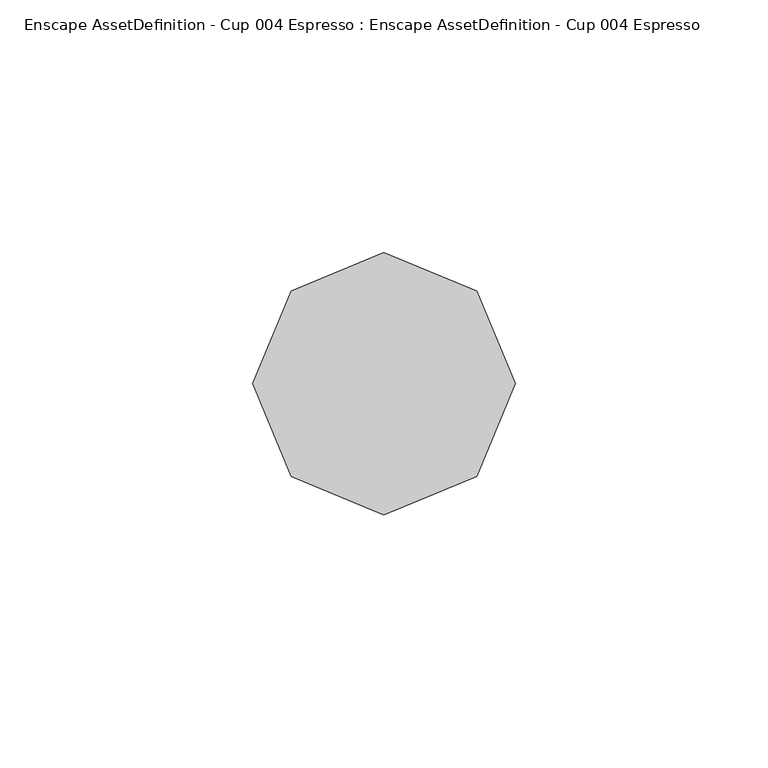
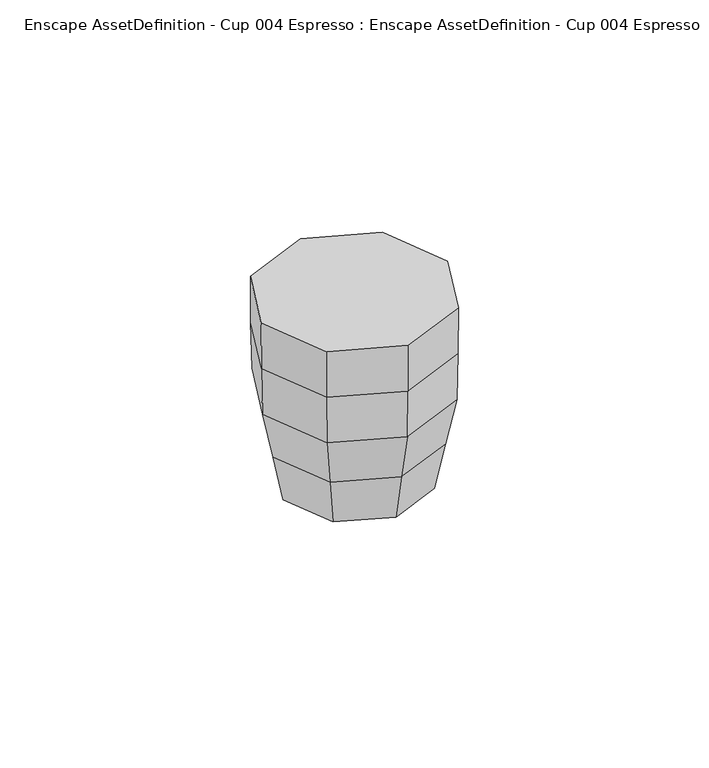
"""IFC4 building model written with IfcOpenShell, lengths in millimetres: geographic element geometry, Enscape AssetDefinition - Cup 004 Espresso : Enscape AssetDefinition - Cup 004 Espresso."""

from ifc_helpers import new_model, si_unit, origin, place, context, project, spatial, triangles, source, transform, mapped, element, save


def enscape_assetdefinition_cup_004_espresso_enscape_9e3265cb(model_context):
    return source(origin(), model_context, "Body", "Tessellation", [
        triangles([(-18.2825051, -18.2825051, 40.5622816), (-18.0614725, -18.0614725, 27.0415248), (-25.8553554, 0.0, 40.5622816), (0.0, -25.5427791, 27.0415248), (0.0, -25.8553554, 40.5622816), (-18.3209055, -18.3209055, 54.0830497), (-25.9096717, 0.0, 54.0830497), (25.9096717, 0.0, 54.0830497), (0.0, 25.9096717, 54.0830497), (0.0, -25.9096717, 54.0830497), (18.2825051, 18.2824971, 40.5622816), (18.3209055, 18.3209055, 54.0830497), (18.3209055, -18.3209055, 54.0830497), (25.8553622, 0.0, 40.5622816), (0.0, 22.7064878, 13.520759), (18.0614725, 18.0614623, 27.0415248), (25.5427791, 0.0, 27.0415248), (18.2825051, -18.2824971, 40.5622816), (18.0614725, -18.0614623, 27.0415248), (0.0, -22.7064878, 13.520759), (16.0559138, -16.0559059, 13.520759), (16.0559138, 16.0559059, 13.520759), (22.7064878, 0.0, 13.520759), (0.0, 19.9184222, 0.0), (14.0844544, 14.0844476, 0.0), (-19.9184222, 0.0, 0.0), (14.0844544, -14.0844476, 0.0), (19.9184222, 0.0, 0.0), (0.0, -19.9184222, 0.0), (-14.0844544, -14.0844544, 0.0), (-14.0844544, 14.0844544, 0.0), (-22.7064878, 0.0, 13.520759), (-16.0559138, 16.0559138, 13.520759), (-25.5427791, 0.0, 27.0415248), (-18.0614725, 18.0614725, 27.0415248), (-16.0559138, -16.0559138, 13.520759), (0.0, 25.8553554, 40.5622816), (0.0, 25.5427791, 27.0415248), (-18.2825051, 18.2825051, 40.5622816), (-18.3209055, 18.3209055, 54.0830497)], [[20, 4, 2], [3, 7, 40], [3, 40, 39], [35, 39, 37], [35, 37, 38], [34, 3, 39], [2, 3, 34], [34, 39, 35], [36, 2, 34], [20, 2, 36], [30, 36, 32], [32, 34, 35], [36, 34, 32], [33, 35, 38], [33, 38, 15], [32, 35, 33], [31, 33, 15], [26, 32, 33], [30, 32, 26], [26, 33, 31], [29, 30, 26], [29, 20, 36], [29, 36, 30], [27, 20, 29], [27, 21, 20], [28, 27, 29], [28, 29, 26], [28, 21, 27], [26, 24, 28], [24, 25, 28], [26, 31, 24], [31, 15, 24], [24, 15, 22], [28, 25, 22], [24, 22, 25], [28, 23, 21], [28, 22, 23], [20, 21, 19], [23, 19, 21], [20, 19, 4], [4, 19, 18], [23, 17, 19], [17, 18, 19], [15, 38, 16], [23, 22, 16], [15, 16, 22], [23, 16, 17], [38, 37, 11], [38, 11, 16], [17, 14, 18], [16, 11, 14], [16, 14, 17], [14, 13, 18], [14, 8, 13], [11, 8, 14], [11, 12, 8], [37, 12, 11], [9, 40, 7], [37, 9, 12], [39, 40, 9], [39, 9, 37], [12, 9, 10], [8, 12, 10], [10, 13, 8], [18, 13, 10], [9, 7, 10], [7, 6, 10], [5, 10, 6], [4, 18, 5], [18, 10, 5], [2, 1, 3], [4, 5, 1], [1, 6, 7], [4, 1, 2], [5, 6, 1], [1, 7, 3]]),
    ])


if __name__ == "__main__":
    model = new_model("IFC4")
    model_context = context("Model", 3, world=origin())
    ifc_project = project(units=[si_unit("LENGTHUNIT", "METRE", prefix="MILLI")], contexts=[model_context])
    site = spatial("IfcSite", under=ifc_project)
    building = spatial("IfcBuilding", under=site)
    placement = place(None, origin())
    enscape_assetdefinition_cup_004_espresso_enscape_shape = enscape_assetdefinition_cup_004_espresso_enscape_9e3265cb(model_context)
    element("IfcGeographicElement", 1, ObjectType="Enscape AssetDefinition - Cup 004 Espresso : Enscape AssetDefinition - Cup 004 Espresso", at=placement, inside=building, context=model_context, shape_type="MappedRepresentation", body=[
        mapped(enscape_assetdefinition_cup_004_espresso_enscape_shape, transform((0.0, 0.0, 0.0), x_axis=(1.0, 0.0, 0.0), y_axis=(0.0, 1.0, 0.0), z_axis=(0.0, 0.0, 1.0))),
    ])
    save(model, "model.ifc")
